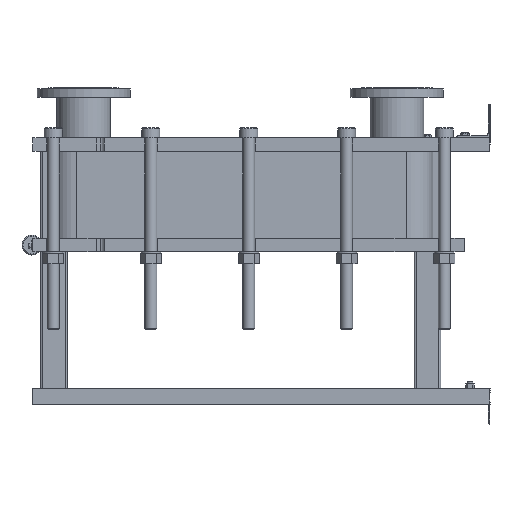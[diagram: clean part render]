
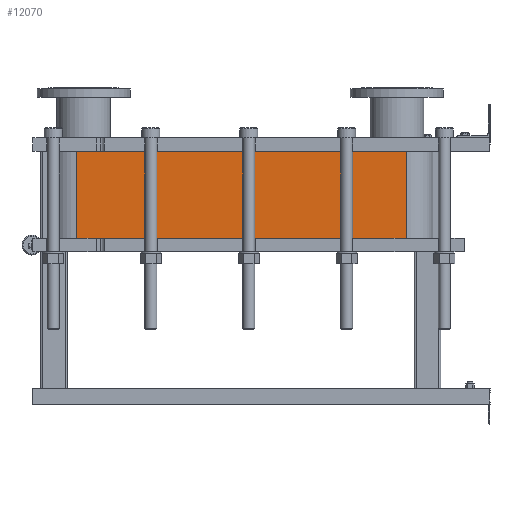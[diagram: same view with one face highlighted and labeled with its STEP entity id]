
A CAD part, left-side view. The second image highlights one B-rep face of the part: STEP entity #12070.
In plain terms, the highlighted planar face has unit normal (-1, 0, 0).
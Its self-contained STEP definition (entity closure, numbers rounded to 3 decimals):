
#1064=LINE('',#21140,#2164);
#1065=LINE('',#21144,#2165);
#1066=LINE('',#21146,#2166);
#1067=LINE('',#21147,#2167);
#2164=VECTOR('',#15790,10.);
#2165=VECTOR('',#15795,10.);
#2166=VECTOR('',#15796,10.);
#2167=VECTOR('',#15797,10.);
#3304=FACE_OUTER_BOUND('',#4091,.T.);
#4091=EDGE_LOOP('',(#9793,#9794,#9795,#9796));
#5677=VERTEX_POINT('',#21137);
#5678=VERTEX_POINT('',#21139);
#5679=VERTEX_POINT('',#21143);
#5680=VERTEX_POINT('',#21145);
#7118=EDGE_CURVE('',#5678,#5677,#1064,.T.);
#7120=EDGE_CURVE('',#5677,#5679,#1065,.T.);
#7121=EDGE_CURVE('',#5680,#5679,#1066,.T.);
#7122=EDGE_CURVE('',#5680,#5678,#1067,.T.);
#9793=ORIENTED_EDGE('',*,*,#7120,.T.);
#9794=ORIENTED_EDGE('',*,*,#7121,.F.);
#9795=ORIENTED_EDGE('',*,*,#7122,.T.);
#9796=ORIENTED_EDGE('',*,*,#7118,.T.);
#11441=PLANE('',#13191);
#12070=ADVANCED_FACE('',(#3304),#11441,.T.);
#13191=AXIS2_PLACEMENT_3D('',#21142,#15793,#15794);
#15790=DIRECTION('',(0.,0.,-1.));
#15793=DIRECTION('center_axis',(-1.,0.,0.));
#15794=DIRECTION('ref_axis',(0.,1.,0.));
#15795=DIRECTION('',(0.,-1.,0.));
#15796=DIRECTION('',(0.,0.,-1.));
#15797=DIRECTION('',(0.,1.,0.));
#21137=CARTESIAN_POINT('',(-248.152,1243.818,-262.2));
#21139=CARTESIAN_POINT('',(-248.152,1243.818,0.));
#21140=CARTESIAN_POINT('',(-248.152,1243.818,0.));
#21142=CARTESIAN_POINT('Origin',(-248.152,251.818,0.));
#21143=CARTESIAN_POINT('',(-248.152,251.818,-262.2));
#21144=CARTESIAN_POINT('',(-248.152,499.818,-262.2));
#21145=CARTESIAN_POINT('',(-248.152,251.818,0.));
#21146=CARTESIAN_POINT('',(-248.152,251.818,0.));
#21147=CARTESIAN_POINT('',(-248.152,251.818,0.));
